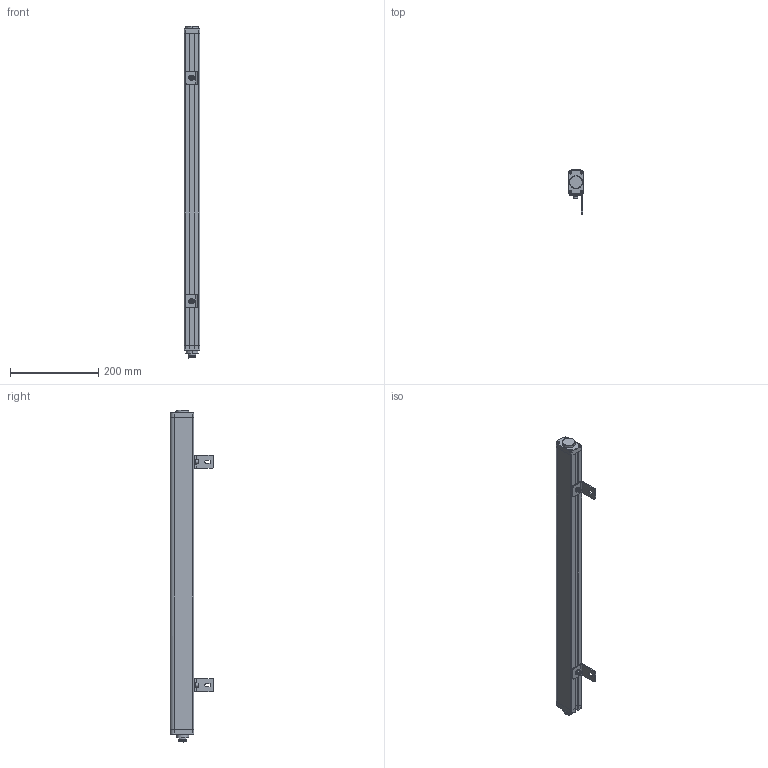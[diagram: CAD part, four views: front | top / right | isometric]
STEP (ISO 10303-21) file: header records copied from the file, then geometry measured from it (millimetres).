
FILE_DESCRIPTION((''),'2;1');
FILE_NAME('ESE8420_ASM','2021-07-12T15:03:06',('18720616900'),(''),'CREO PARAMETRIC BY PTC INC, 2019010','CREO PARAMETRIC BY PTC INC, 2019010','');
FILE_SCHEMA(('CONFIG_CONTROL_DESIGN'));
Length unit declared in the file: millimetre
Products named in the file (15): ESE--00; 000; ESE--000; HKCT2-1-SOLID1; HKCT11-1-SOLID1; 6_10001_ASM; ST-3-120001; L10001; M6-1-00; M6-1--00; M6-8--0001; 00; L1--0001_ASM; ESE8420_ASM
Assembly tree (22 placements, depth 3):
  ESE8420_ASM
    ESE--00
    000
    ESE--000
    ESE--000
    6_10001_ASM
      HKCT2-1-SOLID1
      HKCT11-1-SOLID1
    ST-3-120001  x8
    L1--0001_ASM  x2
      L10001
      M6-1-00
      M6-1--00
      M6-8--0001
      00
Bounding box: 35.3 x 99.3 x 750.59 mm (x, y, z)
Volume: 1262244.6 mm3; surface area: 205637 mm2
Topology: 24 solids, 24 shells, 1203 faces, 3161 edges, 2022 vertices
Faces by surface type: plane 340, cylinder 306, cone 246, bspline 233, torus 64, sphere 14
Entity records: 41666 total; most frequent: CARTESIAN_POINT 27268, ORIENTED_EDGE 3088, DIRECTION 2720, EDGE_CURVE 1544, AXIS2_PLACEMENT_3D 1052, VERTEX_POINT 1019, EDGE_LOOP 661, VECTOR 616
